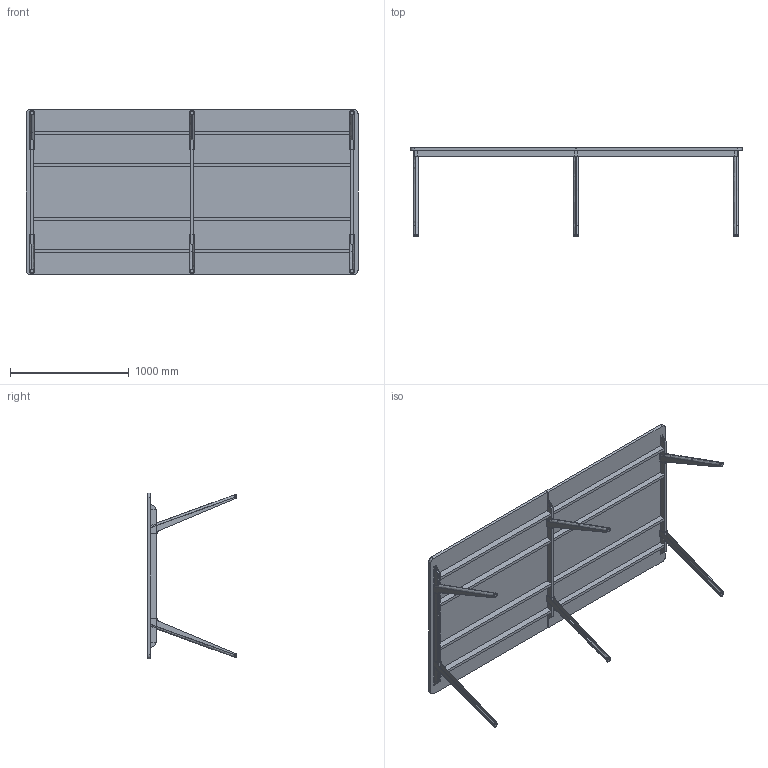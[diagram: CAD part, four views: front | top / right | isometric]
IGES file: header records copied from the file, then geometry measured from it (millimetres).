
Start section: SolidWorks IGES file using analytic representation for surfaces
Global section: file name: C:\Users\simone.cerana\OneDrive - Gruppo Tecno\Desktop\CHINA\DISEGNI DI SERIE\ASSIEMI LISTINO\HORIZON LISTINO\HO2814MS.IGS; native system: SolidWorks 2024; preprocessor: SolidWorks 2024; author: simone.cerana; date: 260508.123759; units: millimetre
Bounding box: 2801 x 749.83 x 1400 mm (x, y, z)
Surface area: 10715171.6 mm2 (no closed solid volume)
Topology: 0 solids, 0 shells, 428 faces, 5578 edges, 5578 vertices
Faces by surface type: bspline 298, revolution 130
